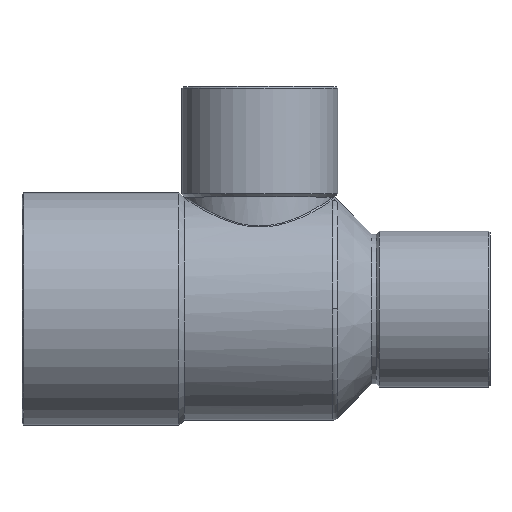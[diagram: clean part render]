
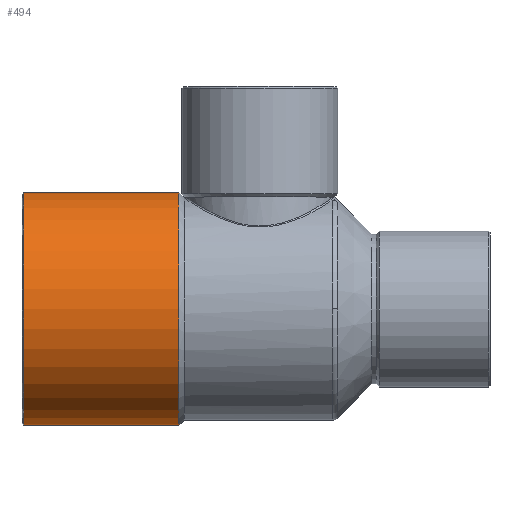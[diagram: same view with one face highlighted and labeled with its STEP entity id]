
A CAD part, top view. The second image highlights one B-rep face of the part: STEP entity #494.
In plain terms, the highlighted cylindrical face has radius 15.175 mm (diameter 30.35 mm), a partial arc.
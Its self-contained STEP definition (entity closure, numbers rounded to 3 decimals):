
#343=CARTESIAN_POINT('',(-10.544,15.175,0.0));
#344=VERTEX_POINT('',#343);
#353=CARTESIAN_POINT('',(-10.544,-15.175,0.));
#354=VERTEX_POINT('',#353);
#355=CARTESIAN_POINT('',(-10.544,0.0,0.0));
#356=DIRECTION('',(1.0,0.0,0.0));
#357=DIRECTION('',(0.0,1.0,0.0));
#358=AXIS2_PLACEMENT_3D('',#355,#356,#357);
#359=CIRCLE('',#358,15.175);
#360=EDGE_CURVE('',#344,#354,#359,.T.);
#463=CARTESIAN_POINT('',(-20.772,0.0,0.0));
#464=DIRECTION('',(1.0,0.0,0.0));
#465=DIRECTION('',(0.0,1.0,0.0));
#466=AXIS2_PLACEMENT_3D('',#463,#464,#465);
#467=CYLINDRICAL_SURFACE('',#466,15.175);
#468=CARTESIAN_POINT('',(-30.8,15.175,0.));
#469=VERTEX_POINT('',#468);
#470=CARTESIAN_POINT('',(-30.8,15.175,0.));
#471=DIRECTION('',(1.0,0.0,0.0));
#472=VECTOR('',#471,20.256);
#473=LINE('',#470,#472);
#474=EDGE_CURVE('',#469,#344,#473,.T.);
#475=ORIENTED_EDGE('',*,*,#474,.F.);
#476=CARTESIAN_POINT('',(-30.8,-15.175,0.));
#477=VERTEX_POINT('',#476);
#478=CARTESIAN_POINT('',(-30.8,0.0,0.0));
#479=DIRECTION('',(-1.0,0.0,0.0));
#480=DIRECTION('',(0.0,-1.0,0.0));
#481=AXIS2_PLACEMENT_3D('',#478,#479,#480);
#482=CIRCLE('',#481,15.175);
#483=EDGE_CURVE('',#477,#469,#482,.T.);
#484=ORIENTED_EDGE('',*,*,#483,.F.);
#485=CARTESIAN_POINT('',(-10.544,-15.175,0.));
#486=DIRECTION('',(-1.0,0.0,0.0));
#487=VECTOR('',#486,20.256);
#488=LINE('',#485,#487);
#489=EDGE_CURVE('',#354,#477,#488,.T.);
#490=ORIENTED_EDGE('',*,*,#489,.F.);
#491=ORIENTED_EDGE('',*,*,#360,.F.);
#492=EDGE_LOOP('',(#475,#484,#490,#491));
#493=FACE_OUTER_BOUND('',#492,.T.);
#494=ADVANCED_FACE('',(#493),#467,.T.);
